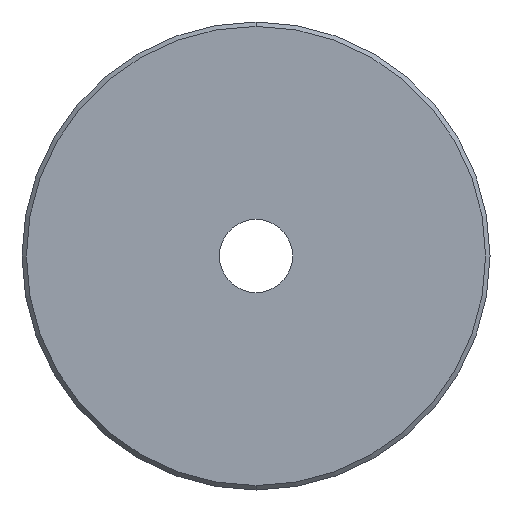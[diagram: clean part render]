
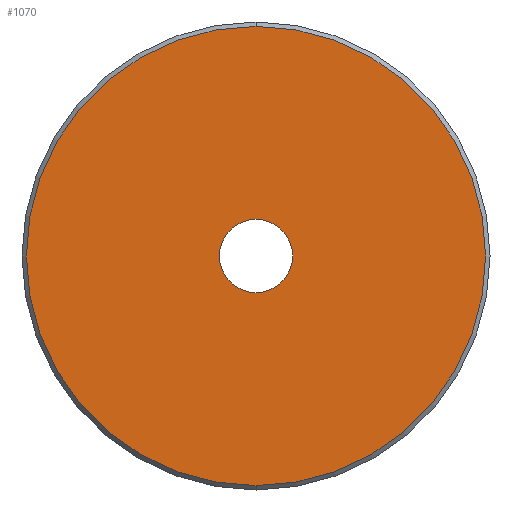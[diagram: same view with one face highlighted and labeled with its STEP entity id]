
A CAD part, front view. The second image highlights one B-rep face of the part: STEP entity #1070.
In plain terms, the highlighted planar face has unit normal (0, -1, 0).
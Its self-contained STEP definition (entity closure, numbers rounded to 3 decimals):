
#11 = DIRECTION ( 'NONE',  ( 0., 0., -1. ) ) ;
#40 = CARTESIAN_POINT ( 'NONE',  ( 0., -4.7, -2.5 ) ) ;
#49 = DIRECTION ( 'NONE',  ( 0., -1., 0. ) ) ;
#68 = DIRECTION ( 'NONE',  ( 0., 0., -1. ) ) ;
#81 = EDGE_CURVE ( 'NONE', #395, #774, #1057, .T. ) ;
#101 = CARTESIAN_POINT ( 'NONE',  ( 0., -4.7, 2.5 ) ) ;
#125 = CARTESIAN_POINT ( 'NONE',  ( 0., -4.7, 0. ) ) ;
#172 = EDGE_CURVE ( 'NONE', #724, #924, #1023, .T. ) ;
#179 = CARTESIAN_POINT ( 'NONE',  ( 0., -4.7, 15.7 ) ) ;
#218 = CARTESIAN_POINT ( 'NONE',  ( 0., -4.7, -15.7 ) ) ;
#264 = CARTESIAN_POINT ( 'NONE',  ( 0., -4.7, 0. ) ) ;
#277 = DIRECTION ( 'NONE',  ( 0., -1., 0. ) ) ;
#278 = AXIS2_PLACEMENT_3D ( 'NONE', #420, #679, #68 ) ;
#320 = AXIS2_PLACEMENT_3D ( 'NONE', #797, #951, #11 ) ;
#395 = VERTEX_POINT ( 'NONE', #218 ) ;
#420 = CARTESIAN_POINT ( 'NONE',  ( 0., -4.7, 0. ) ) ;
#477 = DIRECTION ( 'NONE',  ( 0., 0., -1. ) ) ;
#550 = CIRCLE ( 'NONE', #320, 2.5 ) ;
#583 = AXIS2_PLACEMENT_3D ( 'NONE', #264, #277, #794 ) ;
#584 = EDGE_CURVE ( 'NONE', #924, #724, #550, .T. ) ;
#607 = ORIENTED_EDGE ( 'NONE', *, *, #172, .F. ) ;
#633 = EDGE_LOOP ( 'NONE', ( #1069, #780 ) ) ;
#650 = CARTESIAN_POINT ( 'NONE',  ( 0., -4.7, 0. ) ) ;
#679 = DIRECTION ( 'NONE',  ( 0., -1., 0. ) ) ;
#715 = AXIS2_PLACEMENT_3D ( 'NONE', #650, #912, #830 ) ;
#724 = VERTEX_POINT ( 'NONE', #40 ) ;
#734 = FACE_OUTER_BOUND ( 'NONE', #633, .T. ) ;
#774 = VERTEX_POINT ( 'NONE', #179 ) ;
#780 = ORIENTED_EDGE ( 'NONE', *, *, #81, .T. ) ;
#794 = DIRECTION ( 'NONE',  ( 0., 0., -1. ) ) ;
#797 = CARTESIAN_POINT ( 'NONE',  ( 0., -4.7, 0. ) ) ;
#830 = DIRECTION ( 'NONE',  ( 0., 0., -1. ) ) ;
#877 = CIRCLE ( 'NONE', #961, 15.7 ) ;
#912 = DIRECTION ( 'NONE',  ( 0., -1., 0. ) ) ;
#913 = ORIENTED_EDGE ( 'NONE', *, *, #584, .F. ) ;
#924 = VERTEX_POINT ( 'NONE', #101 ) ;
#951 = DIRECTION ( 'NONE',  ( 0., -1., 0. ) ) ;
#961 = AXIS2_PLACEMENT_3D ( 'NONE', #125, #49, #477 ) ;
#1023 = CIRCLE ( 'NONE', #583, 2.5 ) ;
#1053 = EDGE_CURVE ( 'NONE', #774, #395, #877, .T. ) ;
#1057 = CIRCLE ( 'NONE', #278, 15.7 ) ;
#1063 = FACE_BOUND ( 'NONE', #1087, .T. ) ;
#1067 = PLANE ( 'NONE',  #715 ) ;
#1069 = ORIENTED_EDGE ( 'NONE', *, *, #1053, .T. ) ;
#1070 = ADVANCED_FACE ( 'NONE', ( #734, #1063 ), #1067, .T. ) ;
#1087 = EDGE_LOOP ( 'NONE', ( #913, #607 ) ) ;
